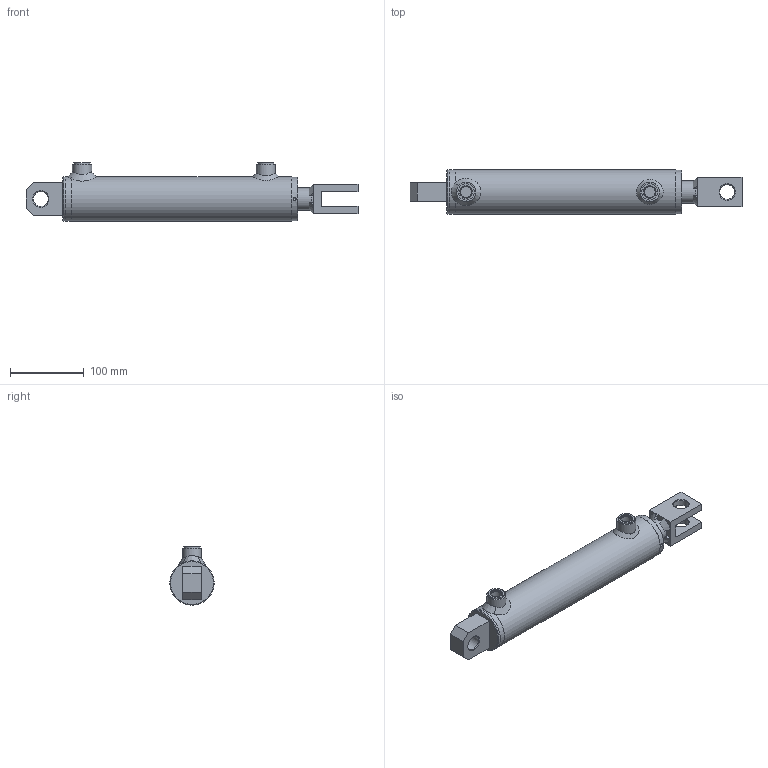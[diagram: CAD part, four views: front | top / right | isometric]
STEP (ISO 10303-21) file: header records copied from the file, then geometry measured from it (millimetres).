
FILE_DESCRIPTION( ( 'Unknown' ), '1' );
FILE_NAME( 'E:/LIBRERIA_3d/CILINDRI/HM5/HM52300200.stp', 'Unknown', ( 'Unknown' ), ( 'Unknown' ), 'PSStep 17.0.49', 'Unknown', ' ' );
FILE_SCHEMA( ( 'AUTOMOTIVE_DESIGN { 1 0 10303 214 1 1 1 1 }' ) );
Length unit declared in the file: millimetre
Products named in the file (31): CG06005030; STL2500200-oa5; Saldatura d'angolo 1-oa3; FTM2500200-oa4; CBSC220600; CT00050020; HM02300200; Saldatura con preparazione 1-oa1; Saldatura d'angolo 1-oa2; CF00050060; CBS0600000; CDA0002015; APG0600000; SBL3020200; Assem1; COF2000000; Saldatura d'angolo 2-oa0; CFS0000020; CSCS004010
Assembly tree (20 placements, depth 4):
  Saldatura d'angolo 1-oa3
  Saldatura d'angolo 1-oa3
  Saldatura d'angolo 1-oa2
  Saldatura d'angolo 1-oa2
  Assem1
    COF2000000
    CFS0000020
    CSCS004010  x2
    HM02300200
      Saldatura con preparazione 1-oa1
      Saldatura con preparazione 1-oa1
      CF00050060
      CBS0600000
      CDA0002015
      APG0600000  x2
      SBL3020200
      CG06005030
        CG06005030
      CT00050020
        CT00050020
      STL2500200-oa5
        FTM2500200-oa4
        CBSC220600
Bounding box: 450 x 60 x 79 mm (x, y, z)
Volume: 715009.1 mm3; surface area: 230065.6 mm2
Topology: 28 solids, 28 shells, 292 faces, 605 edges, 382 vertices
Faces by surface type: plane 108, cylinder 74, cone 54, torus 38, bspline 18
Full cylindrical faces by diameter (mm): 4 x2, 4.25 x3, 5 x2, 7 x2, 14.95 x2, 16 x2, 16.6 x2, 19.4 x1, 20 x5, 20.25 x3, 22 x2, 24.5 x1, 26 x2, 30 x5, 32 x1, 33 x1, 34 x1, 38.6 x1, 40 x1, 45 x1, 45.41 x2, 48.66 x2, 49.9 x1, 50 x1, 50.3 x1, 50.5 x1, 50.6 x1, 51 x1, 52 x3, 52.5 x1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
Entity records: 11692 total; most frequent: CARTESIAN_POINT 4367, DIRECTION 1136, ORIENTED_EDGE 756, AXIS2_PLACEMENT_3D 504, EDGE_LOOP 458, EDGE_CURVE 378, FACE_OUTER_BOUND 372, VERTEX_POINT 313
